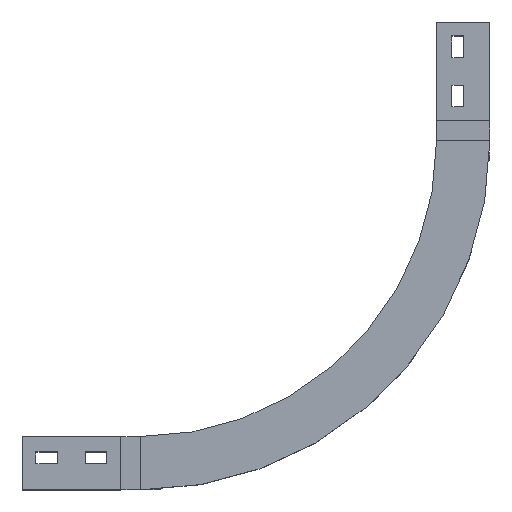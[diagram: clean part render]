
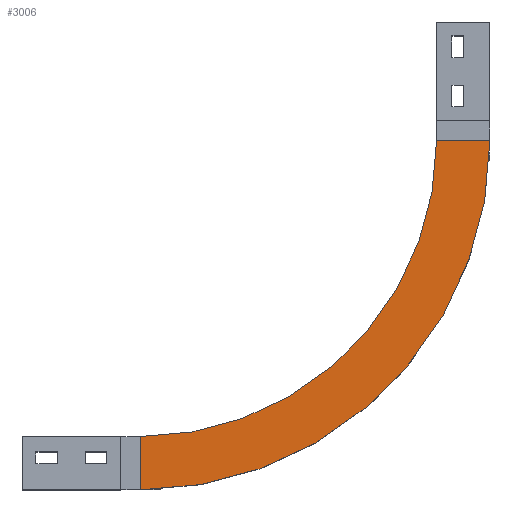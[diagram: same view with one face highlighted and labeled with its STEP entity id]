
A CAD part, top view. The second image highlights one B-rep face of the part: STEP entity #3006.
In plain terms, the highlighted planar face has unit normal (0, 0, 1).
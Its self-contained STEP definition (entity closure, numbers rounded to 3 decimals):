
#169=CIRCLE('',#3183,300.);
#170=CIRCLE('',#3184,354.);
#262=FACE_OUTER_BOUND('',#426,.T.);
#426=EDGE_LOOP('',(#2027,#2028,#2029,#2030));
#623=LINE('',#4256,#963);
#627=LINE('',#4267,#967);
#963=VECTOR('',#3429,304.8);
#967=VECTOR('',#3439,304.8);
#1303=VERTEX_POINT('',#4254);
#1304=VERTEX_POINT('',#4255);
#1307=VERTEX_POINT('',#4263);
#1308=VERTEX_POINT('',#4265);
#1591=EDGE_CURVE('',#1303,#1304,#623,.T.);
#1595=EDGE_CURVE('',#1307,#1304,#169,.T.);
#1596=EDGE_CURVE('',#1303,#1308,#170,.T.);
#1597=EDGE_CURVE('',#1307,#1308,#627,.T.);
#2027=ORIENTED_EDGE('',*,*,#1595,.T.);
#2028=ORIENTED_EDGE('',*,*,#1591,.F.);
#2029=ORIENTED_EDGE('',*,*,#1596,.T.);
#2030=ORIENTED_EDGE('',*,*,#1597,.F.);
#2888=PLANE('',#3182);
#3006=ADVANCED_FACE('',(#262),#2888,.T.);
#3182=AXIS2_PLACEMENT_3D('',#4262,#3433,#3434);
#3183=AXIS2_PLACEMENT_3D('',#4264,#3435,#3436);
#3184=AXIS2_PLACEMENT_3D('',#4266,#3437,#3438);
#3429=DIRECTION('',(0.,1.,0.));
#3433=DIRECTION('center_axis',(0.,0.,1.));
#3434=DIRECTION('ref_axis',(0.,-1.,0.));
#3435=DIRECTION('center_axis',(0.,0.,-1.));
#3436=DIRECTION('ref_axis',(0.,-1.,0.));
#3437=DIRECTION('center_axis',(0.,0.,1.));
#3438=DIRECTION('ref_axis',(0.,-1.,0.));
#3439=DIRECTION('',(1.,0.,0.));
#4254=CARTESIAN_POINT('',(-327.,-27.,55.5));
#4255=CARTESIAN_POINT('',(-327.,27.,55.5));
#4256=CARTESIAN_POINT('',(-327.,-27.,55.5));
#4262=CARTESIAN_POINT('Origin',(-327.,327.,55.5));
#4263=CARTESIAN_POINT('',(-27.,327.,55.5));
#4264=CARTESIAN_POINT('Origin',(-327.,327.,55.5));
#4265=CARTESIAN_POINT('',(27.,327.,55.5));
#4266=CARTESIAN_POINT('Origin',(-327.,327.,55.5));
#4267=CARTESIAN_POINT('',(-27.,327.,55.5));
